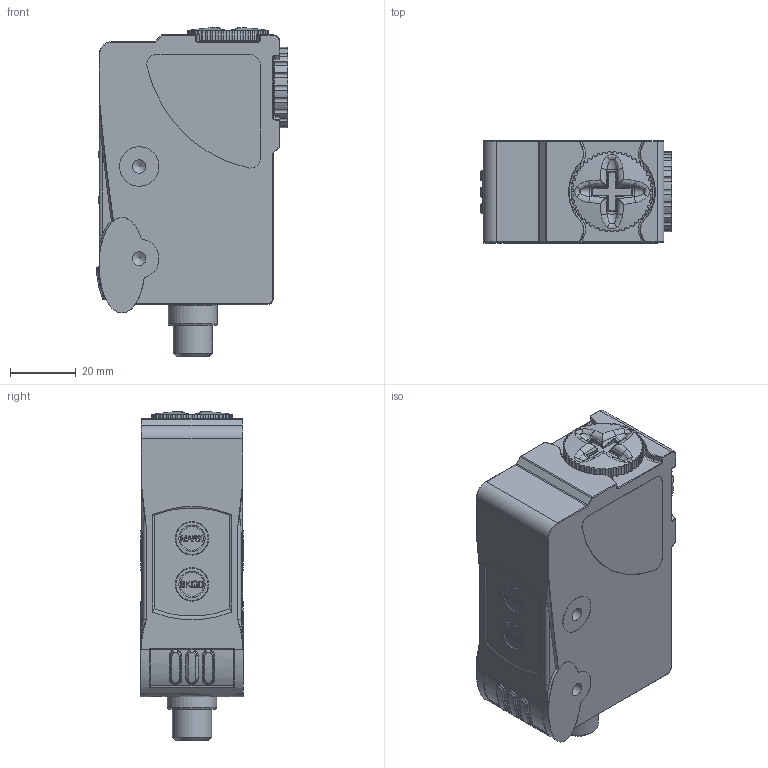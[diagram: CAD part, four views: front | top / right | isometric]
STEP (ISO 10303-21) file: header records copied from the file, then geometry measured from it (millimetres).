
FILE_DESCRIPTION(/* description */ ('Unknown'),/* implementation_level */ '2;1');
FILE_NAME(/* name */ 'OC50.CC-QL1T.72O',/* time_stamp */ '2023-04-03T14:58:06+02:00',/* author */ ('Unknown'),/* organization */ ('Baumer'),/* preprocessor_version */ 'ST-DEVELOPER v16.7',/* originating_system */ 'Solid Edge',/* authorisation */ 'Unknown');
FILE_SCHEMA (('AUTOMOTIVE_DESIGN {1 0 10303 214 3 1 1}'));
Length unit declared in the file: millimetre
Products named in the file (4): OC50.CC-QL1T.72O; OC50.Cx-xxxT.72O_1; OC50.Cx-xxxT.72O_2; OC50.Cx-xxxT.72O_3
Assembly tree (3 placements, depth 2):
  OC50.CC-QL1T.72O
    OC50.Cx-xxxT.72O_1
    OC50.Cx-xxxT.72O_2
    OC50.Cx-xxxT.72O_3
Bounding box: 58.08 x 31.2 x 100.11 mm (x, y, z)
Volume: 135988.3 mm3; surface area: 22524.1 mm2
Topology: 3 solids, 3 shells, 722 faces, 1835 edges, 1128 vertices
Faces by surface type: cylinder 330, plane 179, bspline 110, torus 63, sphere 28, cone 12
Full cylindrical faces by diameter (mm): 1 x4, 4.134 x8, 12 x3, 15 x1, 20 x3, 20.6 x4
Entity records: 29133 total; most frequent: CARTESIAN_POINT 7604, ORIENTED_EDGE 3450, DIRECTION 3365, EDGE_CURVE 1725, AXIS2_PLACEMENT_3D 1355, VERTEX_POINT 1100, FACE_BOUND 813, EDGE_LOOP 805
